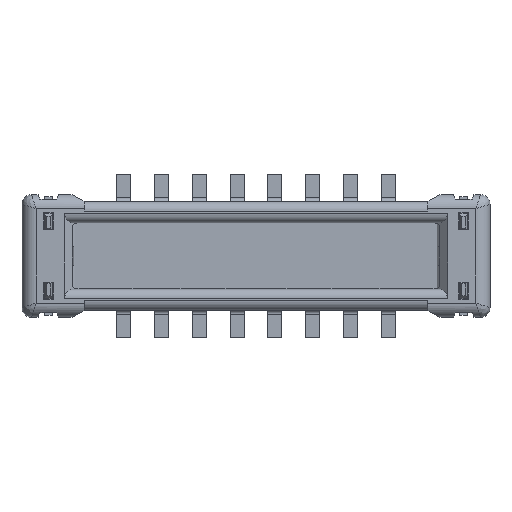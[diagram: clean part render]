
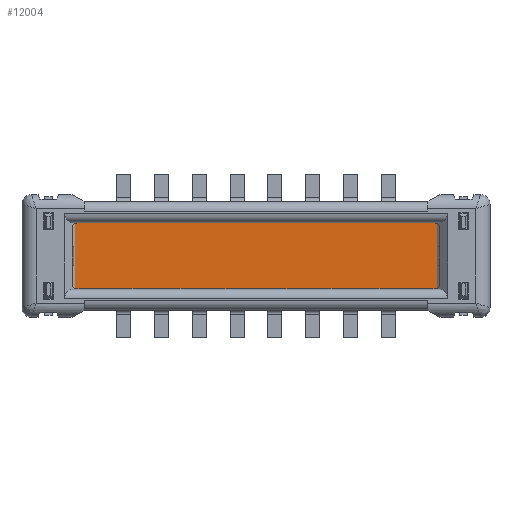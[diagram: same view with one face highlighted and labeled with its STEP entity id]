
A CAD part, top view. The second image highlights one B-rep face of the part: STEP entity #12004.
In plain terms, the highlighted planar face has unit normal (0, 0, 1).
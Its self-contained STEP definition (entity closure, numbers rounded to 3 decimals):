
#1017=AXIS2_PLACEMENT_3D('Circle Axis2P3D',#1015,#1016,$) ;
#6593=AXIS2_PLACEMENT_3D('Circle Axis2P3D',#6591,#6592,$) ;
#11832=AXIS2_PLACEMENT_3D('Plane Axis2P3D',#11829,#11830,#11831) ;
#11845=AXIS2_PLACEMENT_3D('Circle Axis2P3D',#11843,#11844,$) ;
#11974=AXIS2_PLACEMENT_3D('Circle Axis2P3D',#11972,#11973,$) ;
#1012=CARTESIAN_POINT('Vertex',(-1.66,0.35,0.75)) ;
#1015=CARTESIAN_POINT('Axis2P3D Location',(-1.66,0.3,0.75)) ;
#1019=CARTESIAN_POINT('Vertex',(-1.64,0.346,0.75)) ;
#2557=CARTESIAN_POINT('Line Origine',(-1.64,0.,0.75)) ;
#2561=CARTESIAN_POINT('Vertex',(-1.64,-0.346,0.75)) ;
#6588=CARTESIAN_POINT('Vertex',(-5.48,0.346,0.75)) ;
#6591=CARTESIAN_POINT('Axis2P3D Location',(-5.46,0.3,0.75)) ;
#6595=CARTESIAN_POINT('Vertex',(-5.46,0.35,0.75)) ;
#8116=CARTESIAN_POINT('Vertex',(-5.48,-0.346,0.75)) ;
#8119=CARTESIAN_POINT('Line Origine',(-5.48,0.,0.75)) ;
#11829=CARTESIAN_POINT('Axis2P3D Location',(-2.16,0.35,0.75)) ;
#11834=CARTESIAN_POINT('Line Origine',(-3.56,-0.35,0.75)) ;
#11838=CARTESIAN_POINT('Vertex',(-5.46,-0.35,0.75)) ;
#11840=CARTESIAN_POINT('Vertex',(-1.66,-0.35,0.75)) ;
#11843=CARTESIAN_POINT('Axis2P3D Location',(-1.66,-0.3,0.75)) ;
#11848=CARTESIAN_POINT('Line Origine',(-1.868,0.35,0.75)) ;
#11852=CARTESIAN_POINT('Vertex',(-2.075,0.35,0.75)) ;
#11855=CARTESIAN_POINT('Line Origine',(-2.16,0.35,0.75)) ;
#11859=CARTESIAN_POINT('Vertex',(-2.245,0.35,0.75)) ;
#11862=CARTESIAN_POINT('Line Origine',(-2.36,0.35,0.75)) ;
#11866=CARTESIAN_POINT('Vertex',(-2.475,0.35,0.75)) ;
#11869=CARTESIAN_POINT('Line Origine',(-2.56,0.35,0.75)) ;
#11873=CARTESIAN_POINT('Vertex',(-2.645,0.35,0.75)) ;
#11876=CARTESIAN_POINT('Line Origine',(-2.76,0.35,0.75)) ;
#11880=CARTESIAN_POINT('Vertex',(-2.875,0.35,0.75)) ;
#11883=CARTESIAN_POINT('Line Origine',(-2.96,0.35,0.75)) ;
#11887=CARTESIAN_POINT('Vertex',(-3.045,0.35,0.75)) ;
#11890=CARTESIAN_POINT('Line Origine',(-3.16,0.35,0.75)) ;
#11894=CARTESIAN_POINT('Vertex',(-3.275,0.35,0.75)) ;
#11897=CARTESIAN_POINT('Line Origine',(-3.36,0.35,0.75)) ;
#11901=CARTESIAN_POINT('Vertex',(-3.445,0.35,0.75)) ;
#11904=CARTESIAN_POINT('Line Origine',(-3.503,0.35,0.75)) ;
#11908=CARTESIAN_POINT('Vertex',(-3.56,0.35,0.75)) ;
#11911=CARTESIAN_POINT('Line Origine',(-3.618,0.35,0.75)) ;
#11915=CARTESIAN_POINT('Vertex',(-3.675,0.35,0.75)) ;
#11918=CARTESIAN_POINT('Line Origine',(-3.76,0.35,0.75)) ;
#11922=CARTESIAN_POINT('Vertex',(-3.845,0.35,0.75)) ;
#11925=CARTESIAN_POINT('Line Origine',(-3.96,0.35,0.75)) ;
#11929=CARTESIAN_POINT('Vertex',(-4.075,0.35,0.75)) ;
#11932=CARTESIAN_POINT('Line Origine',(-4.16,0.35,0.75)) ;
#11936=CARTESIAN_POINT('Vertex',(-4.245,0.35,0.75)) ;
#11939=CARTESIAN_POINT('Line Origine',(-4.36,0.35,0.75)) ;
#11943=CARTESIAN_POINT('Vertex',(-4.475,0.35,0.75)) ;
#11946=CARTESIAN_POINT('Line Origine',(-4.56,0.35,0.75)) ;
#11950=CARTESIAN_POINT('Vertex',(-4.645,0.35,0.75)) ;
#11953=CARTESIAN_POINT('Line Origine',(-4.76,0.35,0.75)) ;
#11957=CARTESIAN_POINT('Vertex',(-4.875,0.35,0.75)) ;
#11960=CARTESIAN_POINT('Line Origine',(-4.96,0.35,0.75)) ;
#11964=CARTESIAN_POINT('Vertex',(-5.045,0.35,0.75)) ;
#11967=CARTESIAN_POINT('Line Origine',(-5.253,0.35,0.75)) ;
#11972=CARTESIAN_POINT('Axis2P3D Location',(-5.46,-0.3,0.75)) ;
#1016=DIRECTION('Axis2P3D Direction',(-0.,0.,1.)) ;
#2558=DIRECTION('Vector Direction',(0.,1.,0.)) ;
#6592=DIRECTION('Axis2P3D Direction',(-0.,0.,-1.)) ;
#8120=DIRECTION('Vector Direction',(0.,1.,0.)) ;
#11830=DIRECTION('Axis2P3D Direction',(0.,0.,1.)) ;
#11831=DIRECTION('Axis2P3D XDirection',(0.,-1.,0.)) ;
#11835=DIRECTION('Vector Direction',(1.,0.,0.)) ;
#11844=DIRECTION('Axis2P3D Direction',(0.,0.,1.)) ;
#11849=DIRECTION('Vector Direction',(1.,0.,0.)) ;
#11856=DIRECTION('Vector Direction',(-1.,0.,0.)) ;
#11863=DIRECTION('Vector Direction',(1.,0.,0.)) ;
#11870=DIRECTION('Vector Direction',(-1.,0.,0.)) ;
#11877=DIRECTION('Vector Direction',(1.,0.,0.)) ;
#11884=DIRECTION('Vector Direction',(-1.,0.,0.)) ;
#11891=DIRECTION('Vector Direction',(1.,0.,0.)) ;
#11898=DIRECTION('Vector Direction',(-1.,0.,0.)) ;
#11905=DIRECTION('Vector Direction',(1.,0.,0.)) ;
#11912=DIRECTION('Vector Direction',(1.,0.,0.)) ;
#11919=DIRECTION('Vector Direction',(-1.,0.,0.)) ;
#11926=DIRECTION('Vector Direction',(1.,0.,0.)) ;
#11933=DIRECTION('Vector Direction',(-1.,0.,0.)) ;
#11940=DIRECTION('Vector Direction',(1.,0.,0.)) ;
#11947=DIRECTION('Vector Direction',(-1.,0.,0.)) ;
#11954=DIRECTION('Vector Direction',(1.,0.,0.)) ;
#11961=DIRECTION('Vector Direction',(-1.,0.,0.)) ;
#11968=DIRECTION('Vector Direction',(1.,0.,0.)) ;
#11973=DIRECTION('Axis2P3D Direction',(0.,0.,1.)) ;
#2559=VECTOR('Line Direction',#2558,1.) ;
#8121=VECTOR('Line Direction',#8120,1.) ;
#11836=VECTOR('Line Direction',#11835,1.) ;
#11850=VECTOR('Line Direction',#11849,1.) ;
#11857=VECTOR('Line Direction',#11856,1.) ;
#11864=VECTOR('Line Direction',#11863,1.) ;
#11871=VECTOR('Line Direction',#11870,1.) ;
#11878=VECTOR('Line Direction',#11877,1.) ;
#11885=VECTOR('Line Direction',#11884,1.) ;
#11892=VECTOR('Line Direction',#11891,1.) ;
#11899=VECTOR('Line Direction',#11898,1.) ;
#11906=VECTOR('Line Direction',#11905,1.) ;
#11913=VECTOR('Line Direction',#11912,1.) ;
#11920=VECTOR('Line Direction',#11919,1.) ;
#11927=VECTOR('Line Direction',#11926,1.) ;
#11934=VECTOR('Line Direction',#11933,1.) ;
#11941=VECTOR('Line Direction',#11940,1.) ;
#11948=VECTOR('Line Direction',#11947,1.) ;
#11955=VECTOR('Line Direction',#11954,1.) ;
#11962=VECTOR('Line Direction',#11961,1.) ;
#11969=VECTOR('Line Direction',#11968,1.) ;
#11978=ORIENTED_EDGE('',*,*,#11842,.T.) ;
#11979=ORIENTED_EDGE('',*,*,#11847,.F.) ;
#11980=ORIENTED_EDGE('',*,*,#2563,.T.) ;
#11981=ORIENTED_EDGE('',*,*,#1021,.F.) ;
#11982=ORIENTED_EDGE('',*,*,#11854,.T.) ;
#11983=ORIENTED_EDGE('',*,*,#11861,.F.) ;
#11984=ORIENTED_EDGE('',*,*,#11868,.F.) ;
#11985=ORIENTED_EDGE('',*,*,#11875,.F.) ;
#11986=ORIENTED_EDGE('',*,*,#11882,.F.) ;
#11987=ORIENTED_EDGE('',*,*,#11889,.F.) ;
#11988=ORIENTED_EDGE('',*,*,#11896,.F.) ;
#11989=ORIENTED_EDGE('',*,*,#11903,.F.) ;
#11990=ORIENTED_EDGE('',*,*,#11910,.F.) ;
#11991=ORIENTED_EDGE('',*,*,#11917,.T.) ;
#11992=ORIENTED_EDGE('',*,*,#11924,.T.) ;
#11993=ORIENTED_EDGE('',*,*,#11931,.T.) ;
#11994=ORIENTED_EDGE('',*,*,#11938,.T.) ;
#11995=ORIENTED_EDGE('',*,*,#11945,.T.) ;
#11996=ORIENTED_EDGE('',*,*,#11952,.T.) ;
#11997=ORIENTED_EDGE('',*,*,#11959,.T.) ;
#11998=ORIENTED_EDGE('',*,*,#11966,.T.) ;
#11999=ORIENTED_EDGE('',*,*,#11971,.F.) ;
#12000=ORIENTED_EDGE('',*,*,#6597,.T.) ;
#12001=ORIENTED_EDGE('',*,*,#8123,.F.) ;
#12002=ORIENTED_EDGE('',*,*,#11976,.T.) ;
#12004=ADVANCED_FACE('\X2\FF8AFF9FFF70FF82\X0\ \X2\FF8EFF9EFF83FF9EFF68FF70\X0\',(#12003),#11833,.T.) ;
#1018=CIRCLE('generated circle',#1017,0.05) ;
#6594=CIRCLE('generated circle',#6593,0.05) ;
#11846=CIRCLE('generated circle',#11845,0.05) ;
#11975=CIRCLE('generated circle',#11974,0.05) ;
#1021=EDGE_CURVE('',#1013,#1020,#1018,.F.) ;
#2563=EDGE_CURVE('',#2562,#1020,#2560,.T.) ;
#6597=EDGE_CURVE('',#6596,#6589,#6594,.F.) ;
#8123=EDGE_CURVE('',#8117,#6589,#8122,.T.) ;
#11842=EDGE_CURVE('',#11839,#11841,#11837,.T.) ;
#11847=EDGE_CURVE('',#2562,#11841,#11846,.F.) ;
#11854=EDGE_CURVE('',#1013,#11853,#11851,.F.) ;
#11861=EDGE_CURVE('',#11860,#11853,#11858,.F.) ;
#11868=EDGE_CURVE('',#11867,#11860,#11865,.T.) ;
#11875=EDGE_CURVE('',#11874,#11867,#11872,.F.) ;
#11882=EDGE_CURVE('',#11881,#11874,#11879,.T.) ;
#11889=EDGE_CURVE('',#11888,#11881,#11886,.F.) ;
#11896=EDGE_CURVE('',#11895,#11888,#11893,.T.) ;
#11903=EDGE_CURVE('',#11902,#11895,#11900,.F.) ;
#11910=EDGE_CURVE('',#11909,#11902,#11907,.T.) ;
#11917=EDGE_CURVE('',#11909,#11916,#11914,.F.) ;
#11924=EDGE_CURVE('',#11916,#11923,#11921,.T.) ;
#11931=EDGE_CURVE('',#11923,#11930,#11928,.F.) ;
#11938=EDGE_CURVE('',#11930,#11937,#11935,.T.) ;
#11945=EDGE_CURVE('',#11937,#11944,#11942,.F.) ;
#11952=EDGE_CURVE('',#11944,#11951,#11949,.T.) ;
#11959=EDGE_CURVE('',#11951,#11958,#11956,.F.) ;
#11966=EDGE_CURVE('',#11958,#11965,#11963,.T.) ;
#11971=EDGE_CURVE('',#6596,#11965,#11970,.T.) ;
#11976=EDGE_CURVE('',#8117,#11839,#11975,.T.) ;
#11977=EDGE_LOOP('',(#11978,#11979,#11980,#11981,#11982,#11983,#11984,#11985,#11986,#11987,#11988,#11989,#11990,#11991,#11992,#11993,#11994,#11995,#11996,#11997,#11998,#11999,#12000,#12001,#12002)) ;
#12003=FACE_OUTER_BOUND('',#11977,.T.) ;
#2560=LINE('Line',#2557,#2559) ;
#8122=LINE('Line',#8119,#8121) ;
#11837=LINE('Line',#11834,#11836) ;
#11851=LINE('Line',#11848,#11850) ;
#11858=LINE('Line',#11855,#11857) ;
#11865=LINE('Line',#11862,#11864) ;
#11872=LINE('Line',#11869,#11871) ;
#11879=LINE('Line',#11876,#11878) ;
#11886=LINE('Line',#11883,#11885) ;
#11893=LINE('Line',#11890,#11892) ;
#11900=LINE('Line',#11897,#11899) ;
#11907=LINE('Line',#11904,#11906) ;
#11914=LINE('Line',#11911,#11913) ;
#11921=LINE('Line',#11918,#11920) ;
#11928=LINE('Line',#11925,#11927) ;
#11935=LINE('Line',#11932,#11934) ;
#11942=LINE('Line',#11939,#11941) ;
#11949=LINE('Line',#11946,#11948) ;
#11956=LINE('Line',#11953,#11955) ;
#11963=LINE('Line',#11960,#11962) ;
#11970=LINE('Line',#11967,#11969) ;
#11833=PLANE('Plane',#11832) ;
#1013=VERTEX_POINT('',#1012) ;
#1020=VERTEX_POINT('',#1019) ;
#2562=VERTEX_POINT('',#2561) ;
#6589=VERTEX_POINT('',#6588) ;
#6596=VERTEX_POINT('',#6595) ;
#8117=VERTEX_POINT('',#8116) ;
#11839=VERTEX_POINT('',#11838) ;
#11841=VERTEX_POINT('',#11840) ;
#11853=VERTEX_POINT('',#11852) ;
#11860=VERTEX_POINT('',#11859) ;
#11867=VERTEX_POINT('',#11866) ;
#11874=VERTEX_POINT('',#11873) ;
#11881=VERTEX_POINT('',#11880) ;
#11888=VERTEX_POINT('',#11887) ;
#11895=VERTEX_POINT('',#11894) ;
#11902=VERTEX_POINT('',#11901) ;
#11909=VERTEX_POINT('',#11908) ;
#11916=VERTEX_POINT('',#11915) ;
#11923=VERTEX_POINT('',#11922) ;
#11930=VERTEX_POINT('',#11929) ;
#11937=VERTEX_POINT('',#11936) ;
#11944=VERTEX_POINT('',#11943) ;
#11951=VERTEX_POINT('',#11950) ;
#11958=VERTEX_POINT('',#11957) ;
#11965=VERTEX_POINT('',#11964) ;
